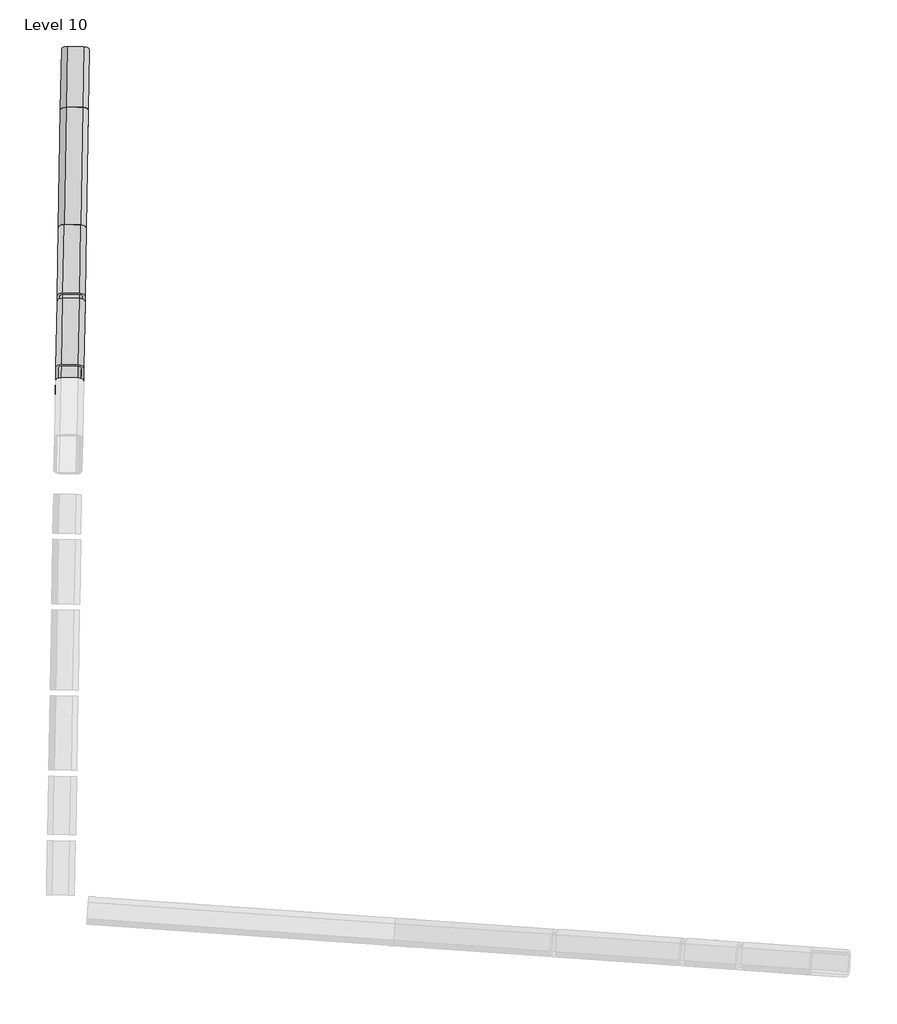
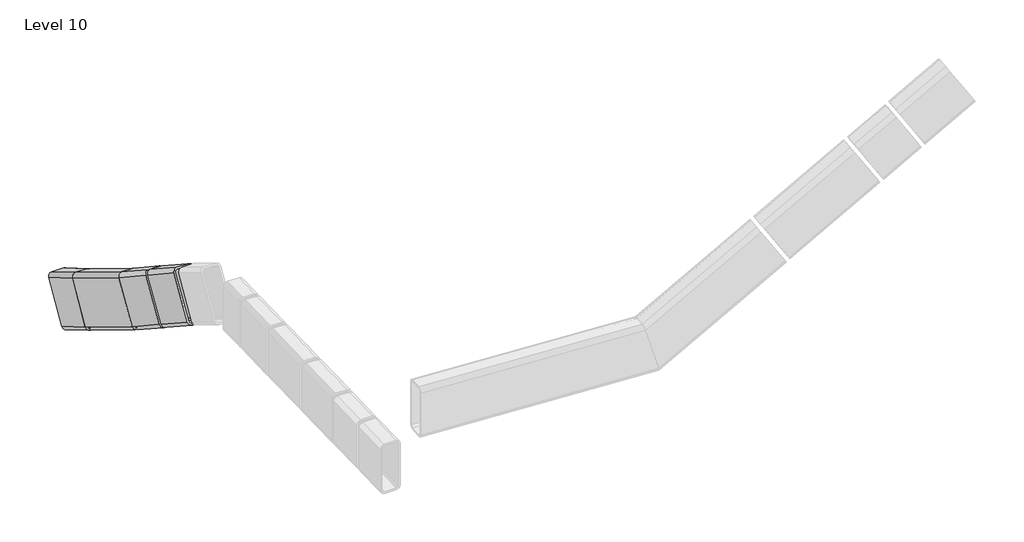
# One storey, part 2 of 2: 4 beams.
"""IFC4 building model written with IfcOpenShell, lengths in millimetres."""

import ifcopenshell
import ifcopenshell.guid

model = None  # the IFC model being written
_history = None  # IfcOwnerHistory: only IFC2X3 demands one
_inside = {}  # id of a spatial element -> (the spatial element, [elements in it])
_under = {}  # id of a project, library or spatial element -> (it, [spatial elements below it])
_declared = {}  # id of a project -> (the project, [libraries it declares])
_typed = {}  # id of a type object -> (the type object, [elements of that type])
_made_of = {}  # id of a material, layer set ... -> (it, [elements and type objects made of it])


def new_model(schema):
    """Start an empty IFC model of exactly this schema.

    Asked for "IFC4X3", IfcOpenShell would pick the latest addendum, in which some entities
    have other attributes; the version numbers below select the first issue.
    IFC2X3 requires an IfcOwnerHistory on every rooted entity: one is made here for all.
    """
    global model, _history
    if schema == "IFC4X3":
        model = ifcopenshell.file(schema_version=(4, 3, 0, 0))
    else:
        model = ifcopenshell.file(schema=schema)
    _inside.clear()
    _under.clear()
    _declared.clear()
    _typed.clear()
    _made_of.clear()
    _history = None
    if model.schema == "IFC2X3":
        org = make("IfcOrganization", Name="unknown")
        user = make(
            "IfcPersonAndOrganization",
            ThePerson=make("IfcPerson", FamilyName="unknown"),
            TheOrganization=org,
        )
        app = make(
            "IfcApplication",
            ApplicationDeveloper=org,
            Version="unknown",
            ApplicationFullName="unknown",
            ApplicationIdentifier="unknown",
        )
        _history = make(
            "IfcOwnerHistory",
            OwningUser=user,
            OwningApplication=app,
            ChangeAction="ADDED",
            CreationDate=0,
        )
    return model


def make(cls, **values):
    """One entity of the class cls with the attributes given. An attribute that is None is left unset."""
    return model.create_entity(
        cls, **{name: value for name, value in values.items() if value is not None}
    )


def rooted(cls, **values):
    """An entity with a GlobalId (a new one), such as an element, a storey or a relation."""
    return make(cls, GlobalId=ifcopenshell.guid.new(), OwnerHistory=_history, **values)


def si_unit(unit_type, name, prefix=None):
    """IfcSIUnit, for example si_unit("LENGTHUNIT", "METRE", prefix="MILLI")."""
    return make("IfcSIUnit", UnitType=unit_type, Prefix=prefix, Name=name)


def assignment(units):
    """IfcUnitAssignment: the units of a project."""
    return None if units is None else make("IfcUnitAssignment", Units=units)


def point(xyz):
    """IfcCartesianPoint."""
    return None if xyz is None else make("IfcCartesianPoint", Coordinates=xyz)


def direction(xyz):
    """IfcDirection."""
    return None if xyz is None else make("IfcDirection", DirectionRatios=xyz)


def frame(location, z_axis=None, x_axis=None):
    """IfcAxis2Placement3D, a coordinate frame: its origin and axes. An axis left out is left unset."""
    return make(
        "IfcAxis2Placement3D",
        Location=point(location),
        Axis=direction(z_axis),
        RefDirection=direction(x_axis),
    )


def frame_2d(location, x_axis=None):
    """IfcAxis2Placement2D, a coordinate frame in the plane: its origin and x axis."""
    return make(
        "IfcAxis2Placement2D", Location=point(location), RefDirection=direction(x_axis)
    )


def origin():
    """The frame at (0, 0, 0) with its axes left unset."""
    return frame((0.0, 0.0, 0.0))


def place(relative_to, where):
    """IfcLocalPlacement: puts the frame where relative to a parent placement (None: the world)."""
    return make(
        "IfcLocalPlacement", PlacementRelTo=relative_to, RelativePlacement=where
    )


def context(
    kind, dimensions, precision=None, world=None, true_north=None, identifier=None
):
    """IfcGeometricRepresentationContext, for example the 3D "Model" context."""
    return make(
        "IfcGeometricRepresentationContext",
        ContextIdentifier=identifier,
        ContextType=kind,
        CoordinateSpaceDimension=dimensions,
        Precision=precision,
        WorldCoordinateSystem=world,
        TrueNorth=true_north,
    )


def project(units=None, contexts=None):
    """IfcProject with its units and contexts."""
    return rooted(
        "IfcProject",
        Name="project",
        RepresentationContexts=contexts,
        UnitsInContext=assignment(units),
    )


def spatial(cls, under=None, at=None, **own):
    """A site, building, storey or space (cls), placed at a placement, below another one or the project."""
    s = rooted(cls, ObjectPlacement=at, **own)
    if under is not None:
        _under.setdefault(under.id(), (under, []))[1].append(s)
    return s


def polyline(points):
    """IfcPolyline through the points."""
    return make("IfcPolyline", Points=[point(p) for p in points])


def circle_curve(where, radius):
    """IfcCircle in the frame where."""
    return make("IfcCircle", Position=where, Radius=radius)


def ellipse_curve(where, semi_axis1, semi_axis2):
    """IfcEllipse in the frame where."""
    return make(
        "IfcEllipse", Position=where, SemiAxis1=semi_axis1, SemiAxis2=semi_axis2
    )


def trimmed(basis, trim1, trim2, sense, master):
    """IfcTrimmedCurve: the piece of a basis curve between two trims."""
    return make(
        "IfcTrimmedCurve",
        BasisCurve=basis,
        Trim1=trim1,
        Trim2=trim2,
        SenseAgreement=sense,
        MasterRepresentation=master,
    )


def segment(curve, same_sense, transition):
    """IfcCompositeCurveSegment."""
    return make(
        "IfcCompositeCurveSegment",
        Transition=transition,
        SameSense=same_sense,
        ParentCurve=curve,
    )


def composite_curve(segments, self_intersect=None):
    """IfcCompositeCurve: segments joined end to end."""
    return make("IfcCompositeCurve", Segments=segments, SelfIntersect=self_intersect)


def outline(outer, holes=None, kind="AREA"):
    """IfcArbitraryClosedProfileDef: a profile drawn as a closed curve; with holes, ...WithVoids."""
    if holes is None:
        return make("IfcArbitraryClosedProfileDef", ProfileType=kind, OuterCurve=outer)
    return make(
        "IfcArbitraryProfileDefWithVoids",
        ProfileType=kind,
        OuterCurve=outer,
        InnerCurves=holes,
    )


def extrude(swept, where, along, depth):
    """IfcExtrudedAreaSolid: the profile swept, set in the frame where, extruded along a direction by depth."""
    return make(
        "IfcExtrudedAreaSolid",
        SweptArea=swept,
        Position=where,
        ExtrudedDirection=direction(along),
        Depth=depth,
    )


def shape(context_of_items, identifier, shape_type, items):
    """IfcShapeRepresentation: the items that make up one representation, for example the "Body"."""
    return make(
        "IfcShapeRepresentation",
        ContextOfItems=context_of_items,
        RepresentationIdentifier=identifier,
        RepresentationType=shape_type,
        Items=items,
    )


def source(mapping_origin, context_of_items, identifier, shape_type, items):
    """IfcRepresentationMap: a shape defined once, which mapped items show again and again."""
    return make(
        "IfcRepresentationMap",
        MappingOrigin=mapping_origin,
        MappedRepresentation=shape(context_of_items, identifier, shape_type, items),
    )


def transform(
    local_origin,
    x_axis=None,
    y_axis=None,
    z_axis=None,
    scale=None,
    scale2=None,
    scale3=None,
    uniform=True,
):
    """IfcCartesianTransformationOperator3D, or its non-uniform kind. x_axis, y_axis, z_axis: its Axis1, 2, 3."""
    if uniform:
        return make(
            "IfcCartesianTransformationOperator3D",
            Axis1=direction(x_axis),
            Axis2=direction(y_axis),
            LocalOrigin=point(local_origin),
            Scale=scale,
            Axis3=direction(z_axis),
        )
    return make(
        "IfcCartesianTransformationOperator3DnonUniform",
        Axis1=direction(x_axis),
        Axis2=direction(y_axis),
        LocalOrigin=point(local_origin),
        Scale=scale,
        Axis3=direction(z_axis),
        Scale2=scale2,
        Scale3=scale3,
    )


def mapped(mapping_source, mapping_target):
    """IfcMappedItem: shows the shape of a source again, moved by a transform."""
    return make(
        "IfcMappedItem", MappingSource=mapping_source, MappingTarget=mapping_target
    )


def made_of(thing, what):
    """Note that an element or type object is made of a material, layer set ...; save() writes the relation."""
    if what is not None:
        _made_of.setdefault(what.id(), (what, []))[1].append(thing)
    return thing


def element(
    cls,
    number,
    at=None,
    inside=None,
    cuts=None,
    type_object=None,
    material=None,
    context=None,
    identifier="Body",
    shape_type=None,
    held_by="IfcProductDefinitionShape",
    body=None,
    shapes=None,
    **own,
):
    """One element of the class cls, such as IfcWall. Its Tag is "e" and its number.

    at: its placement. inside: the storey or other place that contains it. cuts: it is an
    opening in that element (IfcRelVoidsElement). A single representation is given by context,
    identifier, shape_type and body (its items); several are given by shapes. held_by: the class
    of the entity that holds the representations. save() writes the other relations.
    """
    e = rooted(cls, Tag="e%d" % number, ObjectPlacement=at, **own)
    if body is not None:
        shapes = [shape(context, identifier, shape_type, body)]
    if shapes is not None:
        e.Representation = make(held_by, Representations=shapes)
    if inside is not None:
        _inside.setdefault(inside.id(), (inside, []))[1].append(e)
    if cuts is not None:
        rooted(
            "IfcRelVoidsElement", RelatingBuildingElement=cuts, RelatedOpeningElement=e
        )
    if type_object is not None:
        _typed.setdefault(type_object.id(), (type_object, []))[1].append(e)
    return made_of(e, material)


def aggregate(whole, parts):
    """IfcRelAggregates: a whole, such as a stair, and the parts it consists of."""
    return rooted("IfcRelAggregates", RelatingObject=whole, RelatedObjects=parts)


def save(model, path):
    """Write the relations noted so far, then the file.

    IfcRelAggregates (storeys below a building ...), IfcRelContainedInSpatialStructure (elements
    in a storey), IfcRelDefinesByType, IfcRelAssociatesMaterial and IfcRelDeclares: one each for
    every whole, place, type object, material and project.
    """
    for whole, parts in _under.values():
        aggregate(whole, parts)
    for where, things in _inside.values():
        rooted(
            "IfcRelContainedInSpatialStructure",
            RelatedElements=things,
            RelatingStructure=where,
        )
    for kind, things in _typed.values():
        rooted("IfcRelDefinesByType", RelatedObjects=things, RelatingType=kind)
    for what, things in _made_of.values():
        rooted("IfcRelAssociatesMaterial", RelatedObjects=things, RelatingMaterial=what)
    for by, libraries in _declared.values():
        rooted("IfcRelDeclares", RelatingContext=by, RelatedDefinitions=libraries)
    model.write(path)


def plane_surface(at):
    """IfcPlane: the flat surface through the origin of the frame at, square to its z axis."""
    return make("IfcPlane", Position=at)


def cylinder_surface(at, radius):
    """IfcCylindricalSurface: all points at the distance radius from the z axis of the frame at."""
    return make("IfcCylindricalSurface", Position=at, Radius=radius)


def revolved_surface(curve, axis_point, axis_direction):
    """IfcSurfaceOfRevolution: the curve turned about the line through axis_point along axis_direction."""
    return make(
        "IfcSurfaceOfRevolution",
        SweptCurve=make("IfcArbitraryOpenProfileDef", ProfileType="CURVE", Curve=curve),
        AxisPosition=make("IfcAxis1Placement", Location=point(axis_point), Axis=direction(axis_direction)),
    )


def advanced_brep(points, edges, surfaces, faces):
    """IfcAdvancedBrep: a solid bounded by faces that lie on surfaces and meet in shared edges.

    An edge is (start, end): straight between two places in points (the first is 0);
    or (start, end, curve); or (start, end, curve, False) where it runs against its curve.
    A face is (place in surfaces, loops), or (place, loops, False) where it looks against
    its surface's normal. A loop lists edges by number (the first is 1), with a minus sign
    where the edge is run from its end to its start. The first loop is the outer one.
    """
    corners = [point(p) for p in points]
    vertices = [make("IfcVertexPoint", VertexGeometry=c) for c in corners]
    made = []
    for start, end, *more in edges:
        made.append(
            make(
                "IfcEdgeCurve",
                EdgeStart=vertices[start],
                EdgeEnd=vertices[end],
                EdgeGeometry=more[0] if more else make("IfcPolyline", Points=[corners[start], corners[end]]),
                SameSense=more[1] if len(more) > 1 else True,
            )
        )
    hull = []
    for where, loops, *sense in faces:
        bounds = []
        for j, loop in enumerate(loops):
            ring = [make("IfcOrientedEdge", EdgeElement=made[abs(k) - 1], Orientation=k > 0) for k in loop]
            bounds.append(
                make(
                    "IfcFaceOuterBound" if j == 0 else "IfcFaceBound",
                    Bound=make("IfcEdgeLoop", EdgeList=ring),
                    Orientation=True,
                )
            )
        hull.append(make("IfcAdvancedFace", Bounds=bounds, FaceSurface=surfaces[where], SameSense=sense[0] if sense else True))
    return make("IfcAdvancedBrep", Outer=make("IfcClosedShell", CfsFaces=hull))


def rectangular_and_square_hollow_sections_0aaa1cef(model_context):
    return source(origin(), model_context, "Body", "SweptSolid", [
        extrude(outline(composite_curve([segment(polyline([(30.0, 68.0), (30.0, -68.0)]), True, "CONTINUOUS"), segment(trimmed(circle_curve(frame_2d((18.0, -68.0)), 12.0), [point((30.0, -68.0))], [point((18.0, -80.0))], False, "CARTESIAN"), True, "CONTINUOUS"), segment(polyline([(18.0, -80.0), (-18.0, -80.0)]), True, "CONTINUOUS"), segment(trimmed(circle_curve(frame_2d((-18.0, -68.0)), 12.0), [point((-18.0, -80.0))], [point((-30.0, -68.0))], False, "CARTESIAN"), True, "CONTINUOUS"), segment(polyline([(-30.0, -68.0), (-30.0, 68.0)]), True, "CONTINUOUS"), segment(trimmed(circle_curve(frame_2d((-18.0, 68.0)), 12.0), [point((-30.0, 68.0))], [point((-18.0, 80.0))], False, "CARTESIAN"), True, "CONTINUOUS"), segment(polyline([(-18.0, 80.0), (18.0, 80.0)]), True, "CONTINUOUS"), segment(trimmed(circle_curve(frame_2d((18.0, 68.0)), 12.0), [point((18.0, 80.0))], [point((30.0, 68.0))], False, "CARTESIAN"), True, "CONTINUOUS")], self_intersect=False), holes=[composite_curve([segment(trimmed(circle_curve(frame_2d((-18.0, 68.0)), 6.0), [point((-18.0, 74.0))], [point((-24.0, 68.0))], True, "CARTESIAN"), True, "CONTINUOUS"), segment(polyline([(-24.0, 68.0), (-24.0, -68.0)]), True, "CONTINUOUS"), segment(trimmed(circle_curve(frame_2d((-18.0, -68.0)), 6.0), [point((-24.0, -68.0))], [point((-18.0, -74.0))], True, "CARTESIAN"), True, "CONTINUOUS"), segment(polyline([(-18.0, -74.0), (18.0, -74.0)]), True, "CONTINUOUS"), segment(trimmed(circle_curve(frame_2d((18.0, -68.0)), 6.0), [point((18.0, -74.0))], [point((24.0, -68.0))], True, "CARTESIAN"), True, "CONTINUOUS"), segment(polyline([(24.0, -68.0), (24.0, 68.0)]), True, "CONTINUOUS"), segment(trimmed(circle_curve(frame_2d((18.0, 68.0)), 6.0), [point((24.0, 68.0))], [point((18.0, 74.0))], True, "CARTESIAN"), True, "CONTINUOUS"), segment(polyline([(18.0, 74.0), (-18.0, 74.0)]), True, "CONTINUOUS")], self_intersect=False)]), frame((-87.0, 0.0, 0.0), z_axis=(1.0, 0.0, 0.0), x_axis=(0.0, 1.0, 0.0)), (0.0, 0.0, 1.0), 171.0),
    ])


model = new_model("IFC4")

# Units and contexts
model_context = context("Model", 3, world=origin())
ifc_project = project(units=[si_unit("LENGTHUNIT", "METRE", prefix="MILLI")], contexts=[model_context])

# Site, building, storey
site = spatial("IfcSite", under=ifc_project)
building = spatial("IfcBuilding", under=site)
storey = spatial("IfcBuildingStorey", under=building, Name="Level 10", Elevation=289.0)

# Beams
placement = place(None, origin())
element("IfcBeam", 1, ObjectType="Rectangular and Square Hollow Sections : TREC160x60x6", at=placement, inside=storey, context=model_context, shape_type="AdvancedBrep", body=[
    advanced_brep(
    [(-791.2067705, 559.9123124, -92.410788), (-803.3134474, 553.9055207, -102.6752868), (-807.7154972, 301.7122768, 53.4087377), (-795.6043969, 307.9724873, 63.5163939), (-755.2122535, 559.2840257, -92.410788), (-759.6098798, 307.3442006, 63.5163939), (-743.3225857, 552.8583763, -102.6752868), (-747.7246355, 300.6651324, 53.4087377), (-744.5523038, 482.407877, -219.0062732), (-749.004486, 227.3425529, -61.1446997), (-756.6589807, 476.4010854, -229.270772), (-761.1155863, 221.0823425, -71.2523559), (-792.6534977, 477.0293721, -229.270772), (-797.1101033, 221.7106291, -71.2523559), (-804.5431655, 483.4550215, -219.0062732), (-808.9953477, 228.3896974, -61.1446997), (-791.2610228, 556.8042021, -97.5430374), (-755.2665057, 556.1759154, -97.5430374), (-759.6663438, 304.109381, 58.4625658), (-795.6608609, 304.7376676, 58.4625658), (-797.3143612, 553.8008063, -102.6752868), (-801.716411, 301.6075624, 53.4087377), (-798.5440793, 483.350307, -219.0062732), (-802.9962615, 228.2849829, -61.1446997), (-792.5992454, 480.1374823, -224.1385226), (-797.0536393, 224.9454488, -66.1985278), (-756.6047284, 479.5091957, -224.1385226), (-761.0591223, 224.3171621, -66.1985278), (-750.55139, 482.5125915, -219.0062732), (-755.0035722, 227.4472674, -61.1446997), (-749.3216718, 552.9630907, -102.6752868), (-753.7237217, 300.7698468, 53.4087377)],
    [
        (0, 1, ellipse_curve(frame((-791.315275, 553.6960918, -102.6752868), z_axis=(-0.014927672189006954, -0.8552057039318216, 0.5180737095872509), x_axis=(-0.009041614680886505, -0.5179948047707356, -0.8553359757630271)), 12.0005461, 12.0)),
        (1, 2),
        (2, 3, ellipse_curve(frame((-795.7173249, 301.5028479, 53.4087377), z_axis=(0.014698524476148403, 0.8420778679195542, -0.5391556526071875), x_axis=(0.009409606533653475, 0.5390735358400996, 0.8422061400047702)), 12.0014041, 12.0)),
        (3, 0),
        (4, 0),
        (3, 5),
        (5, 4),
        (6, 4, ellipse_curve(frame((-755.320758, 553.0678052, -102.6752868), z_axis=(-0.014927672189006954, -0.8552057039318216, 0.5180737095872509), x_axis=(-0.009041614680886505, -0.5179948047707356, -0.8553359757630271)), 12.0005461, 12.0)),
        (5, 7, ellipse_curve(frame((-759.7228078, 300.8745613, 53.4087377), z_axis=(0.014698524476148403, 0.8420778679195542, -0.5391556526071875), x_axis=(0.009409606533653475, 0.5390735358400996, 0.8422061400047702)), 12.0014041, 12.0)),
        (7, 6),
        (8, 6),
        (7, 9),
        (9, 8),
        (10, 8, ellipse_curve(frame((-756.5504761, 482.6173059, -219.0062732), z_axis=(-0.014927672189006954, -0.8552057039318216, 0.5180737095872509), x_axis=(-0.009041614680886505, -0.5179948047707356, -0.8553359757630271)), 12.0005461, 12.0)),
        (9, 11, ellipse_curve(frame((-761.0026583, 227.5519818, -61.1446997), z_axis=(0.014698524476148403, 0.8420778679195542, -0.5391556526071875), x_axis=(0.009409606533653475, 0.5390735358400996, 0.8422061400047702)), 12.0014041, 12.0)),
        (11, 10),
        (12, 10),
        (11, 13),
        (13, 12),
        (14, 12, ellipse_curve(frame((-792.5449932, 483.2455926, -219.0062732), z_axis=(-0.014927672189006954, -0.8552057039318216, 0.5180737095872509), x_axis=(-0.009041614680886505, -0.5179948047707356, -0.8553359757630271)), 12.0005461, 12.0)),
        (13, 15, ellipse_curve(frame((-796.9971753, 228.1802685, -61.1446997), z_axis=(0.014698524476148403, 0.8420778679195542, -0.5391556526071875), x_axis=(0.009409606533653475, 0.5390735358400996, 0.8422061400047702)), 12.0014041, 12.0)),
        (15, 14),
        (1, 14),
        (15, 2),
        (16, 17),
        (17, 18),
        (18, 19),
        (19, 16),
        (20, 16, ellipse_curve(frame((-791.315275, 553.6960918, -102.6752868), z_axis=(0.014927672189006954, 0.8552057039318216, -0.5180737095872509), x_axis=(0.009041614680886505, 0.5179948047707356, 0.8553359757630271)), 6.000273, 6.0)),
        (19, 21, ellipse_curve(frame((-795.7173249, 301.5028479, 53.4087377), z_axis=(-0.014698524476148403, -0.8420778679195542, 0.5391556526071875), x_axis=(-0.009409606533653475, -0.5390735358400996, -0.8422061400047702)), 6.0007021, 6.0)),
        (21, 20),
        (22, 20),
        (21, 23),
        (23, 22),
        (24, 22, ellipse_curve(frame((-792.5449932, 483.2455926, -219.0062732), z_axis=(0.014927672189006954, 0.8552057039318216, -0.5180737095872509), x_axis=(0.009041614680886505, 0.5179948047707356, 0.8553359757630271)), 6.000273, 6.0)),
        (23, 25, ellipse_curve(frame((-796.9971753, 228.1802685, -61.1446997), z_axis=(-0.014698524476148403, -0.8420778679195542, 0.5391556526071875), x_axis=(-0.009409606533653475, -0.5390735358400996, -0.8422061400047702)), 6.0007021, 6.0)),
        (25, 24),
        (26, 24),
        (25, 27),
        (27, 26),
        (28, 26, ellipse_curve(frame((-756.5504761, 482.6173059, -219.0062732), z_axis=(0.014927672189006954, 0.8552057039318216, -0.5180737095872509), x_axis=(0.009041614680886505, 0.5179948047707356, 0.8553359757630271)), 6.000273, 6.0)),
        (27, 29, ellipse_curve(frame((-761.0026583, 227.5519818, -61.1446997), z_axis=(-0.014698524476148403, -0.8420778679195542, 0.5391556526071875), x_axis=(-0.009409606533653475, -0.5390735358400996, -0.8422061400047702)), 6.0007021, 6.0)),
        (29, 28),
        (30, 28),
        (29, 31),
        (31, 30),
        (17, 30, ellipse_curve(frame((-755.320758, 553.0678052, -102.6752868), z_axis=(0.014927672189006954, 0.8552057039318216, -0.5180737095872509), x_axis=(0.009041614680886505, 0.5179948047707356, 0.8553359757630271)), 6.000273, 6.0)),
        (31, 18, ellipse_curve(frame((-759.7228078, 300.8745613, 53.4087377), z_axis=(-0.014698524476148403, -0.8420778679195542, 0.5391556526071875), x_axis=(-0.009409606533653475, -0.5390735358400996, -0.8422061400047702)), 6.0007021, 6.0)),
    ],
    [
        cylinder_surface(frame((-791.3079354, 554.1165794, -102.9355293), z_axis=(0.014840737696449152, 0.8502252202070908, -0.526209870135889), x_axis=(0.9998476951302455, -0.01745240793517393, 0.0)), 12.0),
        plane_surface(frame((-791.1977318, 560.4301361, -92.7312725), z_axis=(0.009183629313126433, 0.5261297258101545, 0.8503547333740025), x_axis=(-0.014840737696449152, -0.8502252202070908, 0.526209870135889))),
        cylinder_surface(frame((-755.3134184, 553.4882927, -102.9355293), z_axis=(0.014840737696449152, 0.8502252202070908, -0.526209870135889), x_axis=(0.9998476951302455, -0.01745240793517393, 0.0)), 12.0),
        plane_surface(frame((-743.315246, 553.2788638, -102.9355293), z_axis=(0.9998476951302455, -0.01745240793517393, 0.0), x_axis=(-0.014840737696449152, -0.8502252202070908, 0.526209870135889))),
        cylinder_surface(frame((-756.562392, 481.93465, -218.583773), z_axis=(0.014840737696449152, 0.8502252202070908, -0.526209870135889), x_axis=(0.9998476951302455, -0.01745240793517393, 0.0)), 12.0),
        plane_surface(frame((-756.6725955, 475.6210933, -228.7880298), z_axis=(-0.009183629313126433, -0.5261297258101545, -0.8503547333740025), x_axis=(-0.014840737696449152, -0.8502252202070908, 0.526209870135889))),
        cylinder_surface(frame((-792.556909, 482.5629367, -218.583773), z_axis=(0.014840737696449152, 0.8502252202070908, -0.526209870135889), x_axis=(0.9998476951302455, -0.01745240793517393, 0.0)), 12.0),
        plane_surface(frame((-804.5550813, 482.7723656, -218.583773), z_axis=(-0.9998476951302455, 0.01745240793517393, 0.0), x_axis=(-0.014840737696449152, -0.8502252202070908, 0.526209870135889))),
        plane_surface(frame((-755.2583166, 556.6450711, -97.8334009), z_axis=(-0.009183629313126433, -0.5261297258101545, -0.8503547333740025), x_axis=(-0.014840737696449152, -0.8502252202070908, 0.526209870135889))),
        revolved_surface(polyline([(-789.7196009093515, 301.32009212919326, 53.457037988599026), (-785.3153393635, 553.6400454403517, -102.70540780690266)]), (-791.3079354, 554.1165794, -102.9355293), (-0.014840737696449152, -0.8502252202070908, 0.526209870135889)),
        plane_surface(frame((-797.3070216, 554.2212938, -102.9355293), z_axis=(0.9998476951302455, -0.01745240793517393, 0.0), x_axis=(-0.014840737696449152, -0.8502252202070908, 0.526209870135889))),
        revolved_surface(polyline([(-790.999451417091, 227.99751272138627, -61.096399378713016), (-786.5450575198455, 483.18954627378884, -219.0363941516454)]), (-792.556909, 482.5629367, -218.583773), (-0.014840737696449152, -0.8502252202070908, 0.526209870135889)),
        plane_surface(frame((-792.6120108, 479.4061583, -223.6859014), z_axis=(0.009183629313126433, 0.5261297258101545, 0.8503547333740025), x_axis=(-0.014840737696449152, -0.8502252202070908, 0.526209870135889))),
        revolved_surface(polyline([(-755.004934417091, 227.36922602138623, -61.096399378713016), (-750.550540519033, 482.56125962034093, -219.03639418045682)]), (-756.562392, 481.93465, -218.583773), (-0.014840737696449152, -0.8502252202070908, 0.526209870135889)),
        plane_surface(frame((-750.5633058, 481.8299355, -218.583773), z_axis=(-0.9998476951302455, 0.01745240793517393, 0.0), x_axis=(-0.014840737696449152, -0.8502252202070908, 0.526209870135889))),
        revolved_surface(polyline([(-753.7250839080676, 300.69180550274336, 53.45703794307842), (-749.3208223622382, 553.01175881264, -102.70540785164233)]), (-755.3134184, 553.4882927, -102.9355293), (-0.014840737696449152, -0.8502252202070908, 0.526209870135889)),
        plane_surface(frame((-779.1128482, 221.3964852, -71.252357), z_axis=(-0.014698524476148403, -0.8420778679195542, 0.5391556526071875), x_axis=(0.9998919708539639, -0.012378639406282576, 0.00792564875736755))),
        plane_surface(frame((-774.6562377, 476.7152284, -229.2707725), z_axis=(0.014927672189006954, 0.8552057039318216, -0.5180737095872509), x_axis=(0.9998885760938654, -0.012767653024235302, 0.007734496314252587))),
    ],
    [
        (0, [[1, 2, 3, 4]]),
        (1, [[5, -4, 6, 7]]),
        (2, [[8, -7, 9, 10]]),
        (3, [[11, -10, 12, 13]]),
        (4, [[14, -13, 15, 16]]),
        (5, [[17, -16, 18, 19]]),
        (6, [[20, -19, 21, 22]]),
        (7, [[23, -22, 24, -2]]),
        (8, [[25, 26, 27, 28]]),
        (9, [[29, -28, 30, 31]]),
        (10, [[32, -31, 33, 34]]),
        (11, [[35, -34, 36, 37]]),
        (12, [[38, -37, 39, 40]]),
        (13, [[41, -40, 42, 43]]),
        (14, [[44, -43, 45, 46]]),
        (15, [[47, -46, 48, -26]]),
        (16, [[-24, -21, -18, -15, -12, -9, -6, -3], [-48, -45, -42, -39, -36, -33, -30, -27]]),
        (17, [[-1, -5, -8, -11, -14, -17, -20, -23], [-25, -29, -32, -35, -38, -41, -44, -47]]),
    ],
),
])
element("IfcBeam", 2, ObjectType="Rectangular and Square Hollow Sections : TREC160x60x6", at=placement, inside=storey, context=model_context, shape_type="AdvancedBrep", body=[
    advanced_brep(
    [(-788.934809, 690.0728935, -169.5727281), (-801.0410842, 684.0891106, -179.850867), (-803.3134474, 553.9055207, -102.6752868), (-791.2067705, 559.9123124, -92.410788), (-752.9402919, 689.4446068, -169.5727281), (-755.2122535, 559.2840257, -92.410788), (-741.0502225, 683.0419662, -179.850867), (-743.3225857, 552.8583763, -102.6752868), (-742.2753889, 612.8522331, -296.336441), (-744.5523038, 482.407877, -219.0062732), (-754.3816642, 606.8684503, -306.6145799), (-756.6589807, 476.4010854, -229.270772), (-790.3761812, 607.496737, -306.6145799), (-792.6534977, 477.0293721, -229.270772), (-802.2662507, 613.8993776, -296.336441), (-804.5431655, 483.4550215, -219.0062732), (-788.9888604, 686.9762876, -174.7117975), (-752.9943434, 686.3480009, -174.7117975), (-755.2665058, 556.1759154, -97.5430374), (-791.2610228, 556.8042021, -97.5430374), (-795.0419981, 683.9843962, -179.850867), (-797.3143612, 553.8008063, -102.6752868), (-796.2671645, 613.7946631, -296.336441), (-798.5440793, 483.350307, -219.0062732), (-790.3221298, 610.5933428, -301.4755105), (-792.5992454, 480.1374823, -224.1385226), (-754.3276127, 609.9650561, -301.4755105), (-756.6047284, 479.5091957, -224.1385226), (-748.2744751, 612.9569476, -296.336441), (-750.55139, 482.5125915, -219.0062732), (-747.0493087, 683.1466806, -179.850867), (-749.3216718, 552.9630907, -102.6752868)],
    [
        (0, 1, ellipse_curve(frame((-789.0429119, 683.8796817, -179.850867), z_axis=(-0.014947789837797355, -0.8563582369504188, 0.5161658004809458), x_axis=(0.009008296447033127, 0.5160871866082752, 0.856488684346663)), 12.0003207, 12.0)),
        (1, 2),
        (2, 3, ellipse_curve(frame((-791.315275, 553.6960918, -102.6752868), z_axis=(0.014927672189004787, 0.8552057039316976, -0.5180737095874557), x_axis=(0.009041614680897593, 0.5179948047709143, 0.8553359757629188)), 12.0005461, 12.0)),
        (3, 0),
        (4, 0),
        (3, 5),
        (5, 4),
        (6, 4, ellipse_curve(frame((-753.0483949, 683.2513951, -179.850867), z_axis=(-0.014947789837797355, -0.8563582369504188, 0.5161658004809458), x_axis=(0.009008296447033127, 0.5160871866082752, 0.856488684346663)), 12.0003207, 12.0)),
        (5, 7, ellipse_curve(frame((-755.320758, 553.0678052, -102.6752868), z_axis=(0.014927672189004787, 0.8552057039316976, -0.5180737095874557), x_axis=(0.009041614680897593, 0.5179948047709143, 0.8553359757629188)), 12.0005461, 12.0)),
        (7, 6),
        (8, 6),
        (7, 9),
        (9, 8),
        (10, 8, ellipse_curve(frame((-754.2735613, 613.061662, -296.336441), z_axis=(-0.014947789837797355, -0.8563582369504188, 0.5161658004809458), x_axis=(0.009008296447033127, 0.5160871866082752, 0.856488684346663)), 12.0003207, 12.0)),
        (9, 11, ellipse_curve(frame((-756.5504761, 482.6173059, -219.0062732), z_axis=(0.014927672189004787, 0.8552057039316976, -0.5180737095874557), x_axis=(0.009041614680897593, 0.5179948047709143, 0.8553359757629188)), 12.0005461, 12.0)),
        (11, 10),
        (12, 10),
        (11, 13),
        (13, 12),
        (14, 12, ellipse_curve(frame((-790.2680783, 613.6899487, -296.336441), z_axis=(-0.014947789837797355, -0.8563582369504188, 0.5161658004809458), x_axis=(0.009008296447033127, 0.5160871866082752, 0.856488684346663)), 12.0003207, 12.0)),
        (13, 15, ellipse_curve(frame((-792.5449932, 483.2455926, -219.0062732), z_axis=(0.014927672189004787, 0.8552057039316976, -0.5180737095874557), x_axis=(0.009041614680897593, 0.5179948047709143, 0.8553359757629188)), 12.0005461, 12.0)),
        (15, 14),
        (1, 14),
        (15, 2),
        (16, 17),
        (17, 18),
        (18, 19),
        (19, 16),
        (20, 16, ellipse_curve(frame((-789.0429119, 683.8796817, -179.850867), z_axis=(0.014947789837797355, 0.8563582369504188, -0.5161658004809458), x_axis=(-0.009008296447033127, -0.5160871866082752, -0.856488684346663)), 6.0001603, 6.0)),
        (19, 21, ellipse_curve(frame((-791.315275, 553.6960918, -102.6752868), z_axis=(-0.014927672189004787, -0.8552057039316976, 0.5180737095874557), x_axis=(-0.009041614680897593, -0.5179948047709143, -0.8553359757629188)), 6.000273, 6.0)),
        (21, 20),
        (22, 20),
        (21, 23),
        (23, 22),
        (24, 22, ellipse_curve(frame((-790.2680783, 613.6899487, -296.336441), z_axis=(0.014947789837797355, 0.8563582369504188, -0.5161658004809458), x_axis=(-0.009008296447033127, -0.5160871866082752, -0.856488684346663)), 6.0001603, 6.0)),
        (23, 25, ellipse_curve(frame((-792.5449932, 483.2455926, -219.0062732), z_axis=(-0.014927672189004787, -0.8552057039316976, 0.5180737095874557), x_axis=(-0.009041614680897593, -0.5179948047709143, -0.8553359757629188)), 6.000273, 6.0)),
        (25, 24),
        (26, 24),
        (25, 27),
        (27, 26),
        (28, 26, ellipse_curve(frame((-754.2735613, 613.061662, -296.336441), z_axis=(0.014947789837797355, 0.8563582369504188, -0.5161658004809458), x_axis=(-0.009008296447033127, -0.5160871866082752, -0.856488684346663)), 6.0001603, 6.0)),
        (27, 29, ellipse_curve(frame((-756.5504761, 482.6173059, -219.0062732), z_axis=(-0.014927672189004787, -0.8552057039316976, 0.5180737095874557), x_axis=(-0.009041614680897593, -0.5179948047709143, -0.8553359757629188)), 6.000273, 6.0)),
        (29, 28),
        (30, 28),
        (29, 31),
        (31, 30),
        (17, 30, ellipse_curve(frame((-753.0483949, 683.2513951, -179.850867), z_axis=(0.014947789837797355, 0.8563582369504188, -0.5161658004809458), x_axis=(-0.009008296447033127, -0.5160871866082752, -0.856488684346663)), 6.0001603, 6.0)),
        (31, 18, ellipse_curve(frame((-755.320758, 553.0678052, -102.6752868), z_axis=(-0.014927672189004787, -0.8552057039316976, 0.5180737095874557), x_axis=(-0.009041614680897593, -0.5179948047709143, -0.8553359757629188)), 6.000273, 6.0)),
    ],
    [
        cylinder_surface(frame((-789.054195, 683.2332757, -179.4676638), z_axis=(0.015013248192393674, 0.8601083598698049, -0.5098903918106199), x_axis=(0.9998476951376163, -0.01745240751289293, 0.0)), 12.0),
        plane_surface(frame((-788.9474092, 689.3510285, -169.1447913), z_axis=(0.008898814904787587, 0.5098127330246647, 0.860239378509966), x_axis=(-0.015013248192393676, -0.860108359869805, 0.50989039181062))),
        cylinder_surface(frame((-753.0596779, 682.6049891, -179.4676638), z_axis=(0.015013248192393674, 0.8601083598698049, -0.5098903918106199), x_axis=(0.9998476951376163, -0.01745240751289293, 0.0)), 12.0),
        plane_surface(frame((-741.0615056, 682.3955602, -179.4676638), z_axis=(0.9998476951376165, -0.017452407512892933, 0.0), x_axis=(-0.015013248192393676, -0.860108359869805, 0.50989039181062))),
        cylinder_surface(frame((-754.2699168, 613.2704574, -296.4602193), z_axis=(0.015013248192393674, 0.8601083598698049, -0.5098903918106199), x_axis=(0.9998476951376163, -0.01745240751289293, 0.0)), 12.0),
        plane_surface(frame((-754.3767025, 607.1527046, -306.7830919), z_axis=(-0.008898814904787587, -0.5098127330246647, -0.860239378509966), x_axis=(-0.015013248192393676, -0.860108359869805, 0.50989039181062))),
        cylinder_surface(frame((-790.2644338, 613.898744, -296.4602193), z_axis=(0.015013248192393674, 0.8601083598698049, -0.5098903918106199), x_axis=(0.9998476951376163, -0.01745240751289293, 0.0)), 12.0),
        plane_surface(frame((-802.2626061, 614.1081729, -296.4602193), z_axis=(-0.9998476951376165, 0.017452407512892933, 0.0), x_axis=(-0.015013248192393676, -0.860108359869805, 0.50989039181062))),
        plane_surface(frame((-753.006285, 685.6638655, -174.3062276), z_axis=(-0.008898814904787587, -0.5098127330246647, -0.860239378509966), x_axis=(-0.015013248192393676, -0.860108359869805, 0.50989039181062))),
        revolved_surface(polyline([(-785.3170483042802, 553.5421435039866, -102.64609990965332), (-783.0431671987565, 683.8126967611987, -179.8732337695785)]), (-789.054195, 683.2332757, -179.4676638), (-0.015013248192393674, -0.8601083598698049, 0.5098903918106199)),
        plane_surface(frame((-795.0532811, 683.3379902, -179.4676638), z_axis=(0.9998476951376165, -0.017452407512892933, 0.0), x_axis=(-0.015013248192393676, -0.860108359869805, 0.50989039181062))),
        revolved_surface(polyline([(-786.5467663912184, 483.09164427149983, -218.97708629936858), (-784.2683335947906, 613.6229637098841, -296.35880785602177)]), (-790.2644338, 613.898744, -296.4602193), (-0.015013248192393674, -0.8601083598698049, 0.5098903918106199)),
        plane_surface(frame((-790.3178267, 610.8398676, -301.6216556), z_axis=(0.008898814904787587, 0.5098127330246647, 0.860239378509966), x_axis=(-0.015013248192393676, -0.860108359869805, 0.50989039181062))),
        revolved_surface(polyline([(-750.5522493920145, 482.46335762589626, -218.9770862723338), (-748.2738165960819, 612.9946770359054, -296.35880781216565)]), (-754.2699168, 613.2704574, -296.4602193), (-0.015013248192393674, -0.8601083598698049, 0.5098903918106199)),
        plane_surface(frame((-748.2708306, 613.1657429, -296.4602193), z_axis=(-0.9998476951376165, 0.017452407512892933, 0.0), x_axis=(-0.015013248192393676, -0.860108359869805, 0.50989039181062))),
        revolved_surface(polyline([(-749.3225312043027, 552.9138569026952, -102.6460999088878), (-747.0486500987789, 683.1844101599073, -179.87323376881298)]), (-753.0596779, 682.6049891, -179.4676638), (-0.015013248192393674, -0.8601083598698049, 0.5098903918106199)),
        plane_surface(frame((-773.2095135, 559.5981693, -92.4107875), z_axis=(-0.014927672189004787, -0.8552057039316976, 0.5180737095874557), x_axis=(0.9998885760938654, -0.012767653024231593, 0.007734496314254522))),
        plane_surface(frame((-770.9375536, 689.7587508, -169.5727271), z_axis=(0.014947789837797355, 0.8563582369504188, -0.5161658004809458), x_axis=(0.999888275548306, -0.012802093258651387, 0.0077164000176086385))),
    ],
    [
        (0, [[1, 2, 3, 4]]),
        (1, [[5, -4, 6, 7]]),
        (2, [[8, -7, 9, 10]]),
        (3, [[11, -10, 12, 13]]),
        (4, [[14, -13, 15, 16]]),
        (5, [[17, -16, 18, 19]]),
        (6, [[20, -19, 21, 22]]),
        (7, [[23, -22, 24, -2]]),
        (8, [[25, 26, 27, 28]]),
        (9, [[29, -28, 30, 31]]),
        (10, [[32, -31, 33, 34]]),
        (11, [[35, -34, 36, 37]]),
        (12, [[38, -37, 39, 40]]),
        (13, [[41, -40, 42, 43]]),
        (14, [[44, -43, 45, 46]]),
        (15, [[47, -46, 48, -26]]),
        (16, [[-24, -21, -18, -15, -12, -9, -6, -3], [-48, -45, -42, -39, -36, -33, -30, -27]]),
        (17, [[-1, -5, -8, -11, -14, -17, -20, -23], [-25, -29, -32, -35, -38, -41, -44, -47]]),
    ],
),
])
element("IfcBeam", 3, ObjectType="Rectangular and Square Hollow Sections : TREC160x60x6", at=placement, inside=storey, context=model_context, shape_type="AdvancedBrep", body=[
    advanced_brep(
    [(-750.2910428, 153.6357616, 150.7498861), (-762.1736155, 160.4678848, 160.756212), (-798.1681326, 161.0961714, 160.756212), (-810.2819045, 154.682906, 150.7498861), (-811.5920328, 79.625704, 37.3448598), (-799.70946, 72.7935808, 27.3385339), (-763.714943, 72.1652942, 27.3385339), (-751.6011711, 78.5785596, 37.3448598), (-798.2259323, 157.7848243, 155.7530491), (-762.2314153, 157.1565376, 155.7530491), (-756.2901289, 153.740476, 150.7498861), (-757.6002573, 78.6832741, 37.3448598), (-763.6571432, 75.4766414, 32.3416969), (-799.6516602, 76.104928, 32.3416969), (-805.5929466, 79.5209896, 37.3448598), (-804.2828183, 154.5781915, 150.7498861), (-747.7246355, 300.6651324, 53.4087377), (-759.6098799, 307.3442006, 63.5163939), (-795.6043969, 307.9724873, 63.5163939), (-807.7154973, 301.7122768, 53.4087377), (-808.9953476, 228.3896974, -61.1446997), (-797.1101033, 221.7106291, -71.2523559), (-761.1155862, 221.0823425, -71.2523559), (-749.0044859, 227.342553, -61.1446997), (-795.6608609, 304.7376676, 58.4625658), (-759.6663439, 304.109381, 58.4625658), (-753.7237217, 300.7698468, 53.4087377), (-755.0035721, 227.4472674, -61.1446997), (-761.0591223, 224.3171622, -66.1985278), (-797.0536393, 224.9454488, -66.1985278), (-802.9962615, 228.2849829, -61.1446997), (-801.7164111, 301.6075624, 53.4087377)],
    [
        (0, 1, circle_curve(frame((-762.2892151, 153.8451905, 150.7498861), z_axis=(-0.01455287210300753, -0.8337334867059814, 0.551975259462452), x_axis=(-0.999847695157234, 0.017452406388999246, 0.0)), 12.0)),
        (1, 2),
        (2, 3, circle_curve(frame((-798.2837321, 154.4734771, 150.7498861), z_axis=(-0.01455287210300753, -0.8337334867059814, 0.551975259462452), x_axis=(-0.999847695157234, 0.017452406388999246, 0.0)), 12.0)),
        (3, 4),
        (4, 5, circle_curve(frame((-799.5938604, 79.4162751, 37.3448598), z_axis=(-0.01455287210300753, -0.8337334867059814, 0.551975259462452), x_axis=(-0.999847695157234, 0.017452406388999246, 0.0)), 12.0)),
        (5, 6),
        (6, 7, circle_curve(frame((-763.5993434, 78.7879885, 37.3448598), z_axis=(-0.01455287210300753, -0.8337334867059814, 0.551975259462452), x_axis=(-0.999847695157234, 0.017452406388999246, 0.0)), 12.0)),
        (7, 0),
        (8, 9),
        (9, 10, circle_curve(frame((-762.2892151, 153.8451905, 150.7498861), z_axis=(0.01455287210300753, 0.8337334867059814, -0.551975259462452), x_axis=(-0.999847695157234, 0.017452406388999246, 0.0)), 6.0)),
        (10, 11),
        (11, 12, circle_curve(frame((-763.5993434, 78.7879885, 37.3448598), z_axis=(0.01455287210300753, 0.8337334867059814, -0.551975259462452), x_axis=(-0.999847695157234, 0.017452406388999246, 0.0)), 6.0)),
        (12, 13),
        (13, 14, circle_curve(frame((-799.5938604, 79.4162751, 37.3448598), z_axis=(0.01455287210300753, 0.8337334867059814, -0.551975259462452), x_axis=(-0.999847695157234, 0.017452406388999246, 0.0)), 6.0)),
        (14, 15),
        (15, 8, circle_curve(frame((-798.2837321, 154.4734771, 150.7498861), z_axis=(0.01455287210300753, 0.8337334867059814, -0.551975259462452), x_axis=(-0.999847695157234, 0.017452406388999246, 0.0)), 6.0)),
        (0, 16),
        (16, 17, ellipse_curve(frame((-759.7228079, 300.8745613, 53.4087377), z_axis=(-0.014698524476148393, -0.8420778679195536, 0.5391556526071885), x_axis=(0.009409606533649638, 0.5390735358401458, 0.8422061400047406)), 12.0014041, 12.0)),
        (17, 1),
        (17, 18),
        (18, 2),
        (18, 19, ellipse_curve(frame((-795.7173249, 301.5028479, 53.4087377), z_axis=(-0.014698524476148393, -0.8420778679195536, 0.5391556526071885), x_axis=(0.009409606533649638, 0.5390735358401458, 0.8422061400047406)), 12.0014041, 12.0)),
        (19, 3),
        (19, 20),
        (20, 4),
        (20, 21, ellipse_curve(frame((-796.9971753, 228.1802685, -61.1446997), z_axis=(-0.014698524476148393, -0.8420778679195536, 0.5391556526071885), x_axis=(0.009409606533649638, 0.5390735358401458, 0.8422061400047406)), 12.0014041, 12.0)),
        (21, 5),
        (21, 22),
        (22, 6),
        (22, 23, ellipse_curve(frame((-761.0026583, 227.5519818, -61.1446997), z_axis=(-0.014698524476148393, -0.8420778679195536, 0.5391556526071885), x_axis=(0.009409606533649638, 0.5390735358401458, 0.8422061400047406)), 12.0014041, 12.0)),
        (23, 7),
        (23, 16),
        (8, 24),
        (24, 25),
        (25, 9),
        (25, 26, ellipse_curve(frame((-759.7228079, 300.8745613, 53.4087377), z_axis=(0.014698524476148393, 0.8420778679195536, -0.5391556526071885), x_axis=(-0.009409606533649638, -0.5390735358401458, -0.8422061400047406)), 6.0007021, 6.0)),
        (26, 10),
        (26, 27),
        (27, 11),
        (27, 28, ellipse_curve(frame((-761.0026583, 227.5519818, -61.1446997), z_axis=(0.014698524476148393, 0.8420778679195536, -0.5391556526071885), x_axis=(-0.009409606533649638, -0.5390735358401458, -0.8422061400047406)), 6.0007021, 6.0)),
        (28, 12),
        (28, 29),
        (29, 13),
        (29, 30, ellipse_curve(frame((-796.9971753, 228.1802685, -61.1446997), z_axis=(0.014698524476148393, 0.8420778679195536, -0.5391556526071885), x_axis=(-0.009409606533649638, -0.5390735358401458, -0.8422061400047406)), 6.0007021, 6.0)),
        (30, 14),
        (30, 31),
        (31, 15),
        (31, 24, ellipse_curve(frame((-795.7173249, 301.5028479, 53.4087377), z_axis=(0.014698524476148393, 0.8420778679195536, -0.5391556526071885), x_axis=(-0.009409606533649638, -0.5390735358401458, -0.8422061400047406)), 6.0007021, 6.0)),
    ],
    [
        plane_surface(frame((-780.9415378, 116.6307328, 94.047373), z_axis=(-0.014552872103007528, -0.8337334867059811, 0.551975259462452), x_axis=(0.009633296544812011, 0.5518911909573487, 0.8338604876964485))),
        cylinder_surface(frame((-762.2892151, 153.8451905, 150.7498861), z_axis=(-0.014552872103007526, -0.8337334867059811, 0.5519752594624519), x_axis=(-0.999847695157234, 0.017452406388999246, 0.0)), 12.0),
        plane_surface(frame((-762.1736155, 160.4678848, 160.756212), z_axis=(0.009633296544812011, 0.5518911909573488, 0.8338604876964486), x_axis=(0.014552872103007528, 0.8337334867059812, -0.551975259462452))),
        cylinder_surface(frame((-798.2837321, 154.4734771, 150.7498861), z_axis=(-0.014552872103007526, -0.8337334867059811, 0.5519752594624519), x_axis=(-0.999847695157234, 0.017452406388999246, 0.0)), 12.0),
        plane_surface(frame((-810.2819045, 154.682906, 150.7498861), z_axis=(-0.9998476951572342, 0.017452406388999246, 0.0), x_axis=(0.014552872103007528, 0.8337334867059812, -0.551975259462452))),
        cylinder_surface(frame((-799.5938604, 79.4162751, 37.3448598), z_axis=(-0.014552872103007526, -0.8337334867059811, 0.5519752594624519), x_axis=(-0.999847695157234, 0.017452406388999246, 0.0)), 12.0),
        plane_surface(frame((-799.70946, 72.7935808, 27.3385339), z_axis=(-0.009633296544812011, -0.5518911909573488, -0.8338604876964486), x_axis=(0.014552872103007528, 0.8337334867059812, -0.551975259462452))),
        cylinder_surface(frame((-763.5993434, 78.7879885, 37.3448598), z_axis=(-0.014552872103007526, -0.8337334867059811, 0.5519752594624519), x_axis=(-0.999847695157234, 0.017452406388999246, 0.0)), 12.0),
        plane_surface(frame((-751.6011711, 78.5785596, 37.3448598), z_axis=(0.9998476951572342, -0.017452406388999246, 0.0), x_axis=(0.014552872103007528, 0.8337334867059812, -0.551975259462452))),
        plane_surface(frame((-798.2259323, 157.7848243, 155.7530491), z_axis=(-0.009633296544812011, -0.5518911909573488, -0.8338604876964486), x_axis=(0.014552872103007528, 0.8337334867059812, -0.551975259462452))),
        revolved_surface(polyline([(-765.7205582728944, 301.05580318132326, 53.35807247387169), (-768.288301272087, 153.9499048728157, 150.74988614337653)]), (-762.2892151, 153.8451905, 150.7498861), (0.014552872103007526, 0.8337334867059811, -0.5519752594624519)),
        plane_surface(frame((-756.2901289, 153.740476, 150.7498861), z_axis=(-0.9998476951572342, 0.017452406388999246, 0.0), x_axis=(0.014552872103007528, 0.8337334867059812, -0.551975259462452))),
        revolved_surface(polyline([(-767.000408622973, 227.73322377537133, -61.195364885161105), (-769.5984295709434, 78.892702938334, 37.3448598)]), (-763.5993434, 78.7879885, 37.3448598), (0.014552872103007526, 0.8337334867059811, -0.5519752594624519)),
        plane_surface(frame((-763.6571432, 75.4766414, 32.3416969), z_axis=(0.009633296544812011, 0.5518911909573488, 0.8338604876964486), x_axis=(0.014552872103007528, 0.8337334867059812, -0.551975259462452))),
        revolved_surface(polyline([(-802.9949256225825, 228.36151039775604, -61.19536489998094), (-805.5929465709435, 79.52098953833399, 37.3448598)]), (-799.5938604, 79.4162751, 37.3448598), (0.014552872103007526, 0.8337334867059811, -0.5519752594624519)),
        plane_surface(frame((-805.5929466, 79.5209896, 37.3448598), z_axis=(0.9998476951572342, -0.017452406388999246, 0.0), x_axis=(0.014552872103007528, 0.8337334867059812, -0.551975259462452))),
        revolved_surface(polyline([(-801.7150752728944, 301.6840897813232, 53.35807247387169), (-804.2828182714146, 154.57819151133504, 150.74988611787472)]), (-798.2837321, 154.4734771, 150.7498861), (0.014552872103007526, 0.8337334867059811, -0.5519752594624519)),
        plane_surface(frame((-777.607135, 307.6583446, 63.516395), z_axis=(0.014698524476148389, 0.8420778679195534, -0.5391556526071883), x_axis=(0.9998919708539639, -0.012378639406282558, 0.007925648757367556))),
    ],
    [
        (0, [[1, 2, 3, 4, 5, 6, 7, 8], [9, 10, 11, 12, 13, 14, 15, 16]]),
        (1, [[-1, 17, 18, 19]]),
        (2, [[-2, -19, 20, 21]]),
        (3, [[-3, -21, 22, 23]]),
        (4, [[-4, -23, 24, 25]]),
        (5, [[-5, -25, 26, 27]]),
        (6, [[-6, -27, 28, 29]]),
        (7, [[-7, -29, 30, 31]]),
        (8, [[-8, -31, 32, -17]]),
        (9, [[-9, 33, 34, 35]]),
        (10, [[-10, -35, 36, 37]]),
        (11, [[-11, -37, 38, 39]]),
        (12, [[-12, -39, 40, 41]]),
        (13, [[-13, -41, 42, 43]]),
        (14, [[-14, -43, 44, 45]]),
        (15, [[-15, -45, 46, 47]]),
        (16, [[-16, -47, 48, -33]]),
        (17, [[-32, -30, -28, -26, -24, -22, -20, -18], [-48, -46, -44, -42, -40, -38, -36, -34]]),
    ],
),
])
rectangular_and_square_hollow_sections_shape = rectangular_and_square_hollow_sections_0aaa1cef(model_context)
element("IfcBeam", 4, ObjectType="Rectangular and Square Hollow Sections : TREC160x60x6", at=placement, inside=storey, context=model_context, shape_type="MappedRepresentation", body=[
    mapped(rectangular_and_square_hollow_sections_shape, transform((-782.3950696, 32.8946329, 149.4849655), x_axis=(-0.014472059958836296, -0.8337348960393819, 0.5519752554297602), y_axis=(0.9998493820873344, -0.017355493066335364, 0.0), z_axis=(0.009579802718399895, 0.5518921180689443, 0.8338604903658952))),
])

save(model, "model.ifc")
